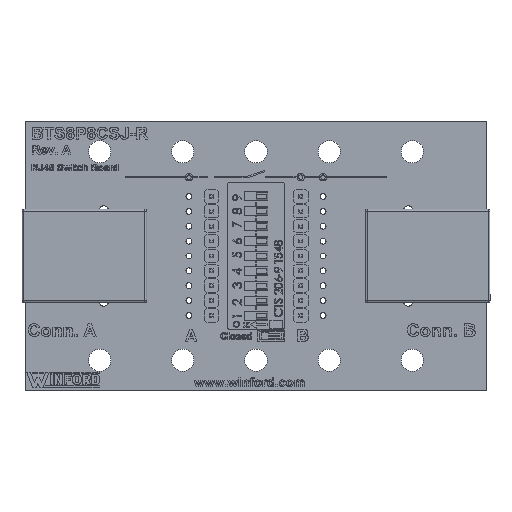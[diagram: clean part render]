
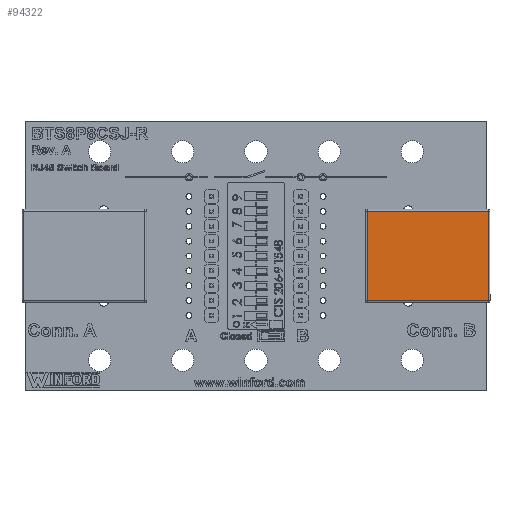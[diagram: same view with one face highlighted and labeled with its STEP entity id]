
A CAD part, top view. The second image highlights one B-rep face of the part: STEP entity #94322.
In plain terms, the highlighted planar face has unit normal (0, 0, 1) as drawn and (0, 1, 0) by its records, which use the part's own axes.
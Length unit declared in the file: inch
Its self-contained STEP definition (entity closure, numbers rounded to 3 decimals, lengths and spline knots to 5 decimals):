
#5398 = LINE ( 'NONE', #74002, #29574 ) ;
#7561 = AXIS2_PLACEMENT_3D ( 'NONE', #158353, #173784, #46373 ) ;
#9751 = EDGE_CURVE ( 'NONE', #155016, #153426, #128200, .T. ) ;
#16702 = LINE ( 'NONE', #126387, #162107 ) ;
#27012 = ORIENTED_EDGE ( 'NONE', *, *, #117299, .F. ) ;
#29574 = VECTOR ( 'NONE', #157548, 39.37008 ) ;
#30462 = LINE ( 'NONE', #177910, #147267 ) ;
#41532 = CARTESIAN_POINT ( 'NONE',  ( -0.3126, 0.5374, -0.81181 ) ) ;
#46373 = DIRECTION ( 'NONE',  ( 0., 0., -1. ) ) ;
#51559 = CARTESIAN_POINT ( 'NONE',  ( 0.30079, 0.5374, -0.81181 ) ) ;
#53777 = VERTEX_POINT ( 'NONE', #73243 ) ;
#55234 = CARTESIAN_POINT ( 'NONE',  ( -0.30079, 0.5374, -0.81181 ) ) ;
#58779 = PLANE ( 'NONE',  #7561 ) ;
#68450 = EDGE_CURVE ( 'NONE', #162323, #155016, #16702, .T. ) ;
#71597 = DIRECTION ( 'NONE',  ( 0., 0., -1. ) ) ;
#73243 = CARTESIAN_POINT ( 'NONE',  ( 0.30079, 0.5374, 0.00197 ) ) ;
#74002 = CARTESIAN_POINT ( 'NONE',  ( 0.30079, 0.5374, 0.01378 ) ) ;
#76144 = ORIENTED_EDGE ( 'NONE', *, *, #141618, .F. ) ;
#90772 = VECTOR ( 'NONE', #126533, 39.37008 ) ;
#91288 = ORIENTED_EDGE ( 'NONE', *, *, #9751, .F. ) ;
#94247 = DIRECTION ( 'NONE',  ( -1., 0., 0. ) ) ;
#94322 = ADVANCED_FACE ( 'NONE', ( #152384 ), #58779, .F. ) ;
#100458 = EDGE_LOOP ( 'NONE', ( #91288, #106440, #27012, #76144 ) ) ;
#106440 = ORIENTED_EDGE ( 'NONE', *, *, #68450, .F. ) ;
#117299 = EDGE_CURVE ( 'NONE', #53777, #162323, #30462, .T. ) ;
#126387 = CARTESIAN_POINT ( 'NONE',  ( -0.30079, 0.5374, 0.01378 ) ) ;
#126533 = DIRECTION ( 'NONE',  ( 1., 0., 0. ) ) ;
#128200 = LINE ( 'NONE', #41532, #90772 ) ;
#141618 = EDGE_CURVE ( 'NONE', #153426, #53777, #5398, .T. ) ;
#147267 = VECTOR ( 'NONE', #94247, 39.37008 ) ;
#152384 = FACE_OUTER_BOUND ( 'NONE', #100458, .T. ) ;
#153426 = VERTEX_POINT ( 'NONE', #51559 ) ;
#155016 = VERTEX_POINT ( 'NONE', #55234 ) ;
#157548 = DIRECTION ( 'NONE',  ( 0., 0., 1. ) ) ;
#158353 = CARTESIAN_POINT ( 'NONE',  ( -0.3126, 0.5374, 0.01378 ) ) ;
#159536 = CARTESIAN_POINT ( 'NONE',  ( -0.30079, 0.5374, 0.00197 ) ) ;
#162107 = VECTOR ( 'NONE', #71597, 39.37008 ) ;
#162323 = VERTEX_POINT ( 'NONE', #159536 ) ;
#173784 = DIRECTION ( 'NONE',  ( 0., -1., 0. ) ) ;
#177910 = CARTESIAN_POINT ( 'NONE',  ( -0.3126, 0.5374, 0.00197 ) ) ;
